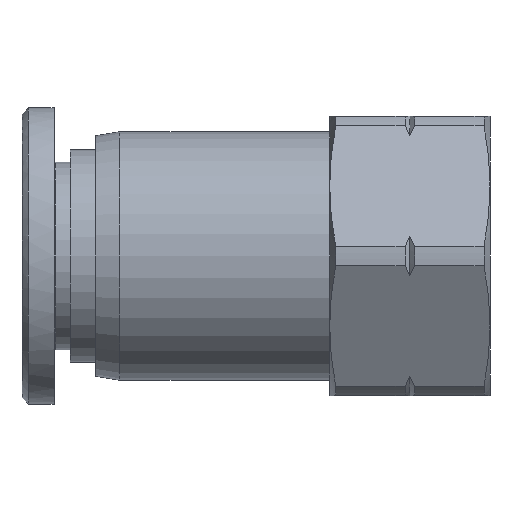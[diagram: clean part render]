
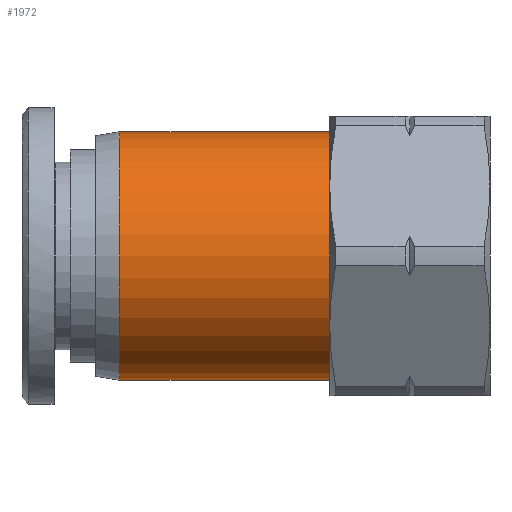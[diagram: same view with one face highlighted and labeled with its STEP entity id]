
A CAD part, front view. The second image highlights one B-rep face of the part: STEP entity #1972.
In plain terms, the highlighted cylindrical face has radius 7.75 mm (diameter 15.5 mm), a full revolution.
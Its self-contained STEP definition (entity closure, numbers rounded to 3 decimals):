
#1829=CARTESIAN_POINT('',(14.6,0.,-7.75));
#1830=VERTEX_POINT('',#1829);
#1831=CARTESIAN_POINT('',(14.6,0.0,0.0));
#1832=DIRECTION('',(-1.0,0.0,0.0));
#1833=DIRECTION('',(0.0,1.0,0.0));
#1834=AXIS2_PLACEMENT_3D('',#1831,#1832,#1833);
#1835=CIRCLE('',#1834,7.75);
#1836=EDGE_CURVE('',#1830,#1830,#1835,.T.);
#1946=CARTESIAN_POINT('',(1.5,7.75,0.0));
#1947=VERTEX_POINT('',#1946);
#1948=CARTESIAN_POINT('',(1.5,0.0,0.0));
#1949=DIRECTION('',(1.0,0.0,0.0));
#1950=DIRECTION('',(0.0,1.0,0.0));
#1951=AXIS2_PLACEMENT_3D('',#1948,#1949,#1950);
#1952=CIRCLE('',#1951,7.75);
#1953=EDGE_CURVE('',#1947,#1947,#1952,.T.);
#1961=CARTESIAN_POINT('',(13.05,0.0,0.0));
#1962=DIRECTION('',(1.0,0.0,0.0));
#1963=DIRECTION('',(0.0,1.0,0.0));
#1964=AXIS2_PLACEMENT_3D('',#1961,#1962,#1963);
#1965=CYLINDRICAL_SURFACE('',#1964,7.75);
#1966=ORIENTED_EDGE('',*,*,#1836,.T.);
#1967=EDGE_LOOP('',(#1966));
#1968=FACE_OUTER_BOUND('',#1967,.T.);
#1969=ORIENTED_EDGE('',*,*,#1953,.T.);
#1970=EDGE_LOOP('',(#1969));
#1971=FACE_BOUND('',#1970,.T.);
#1972=ADVANCED_FACE('',(#1968,#1971),#1965,.T.);
